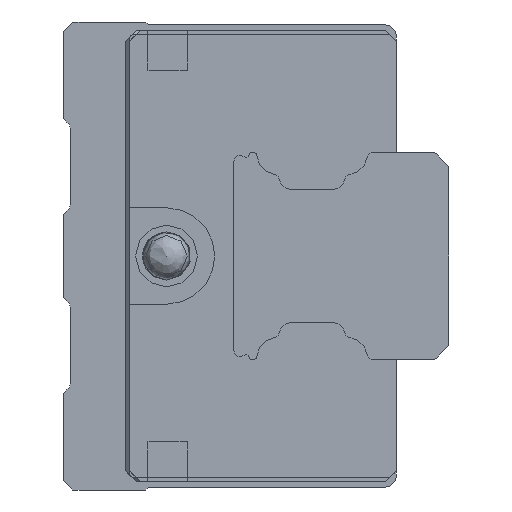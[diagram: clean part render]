
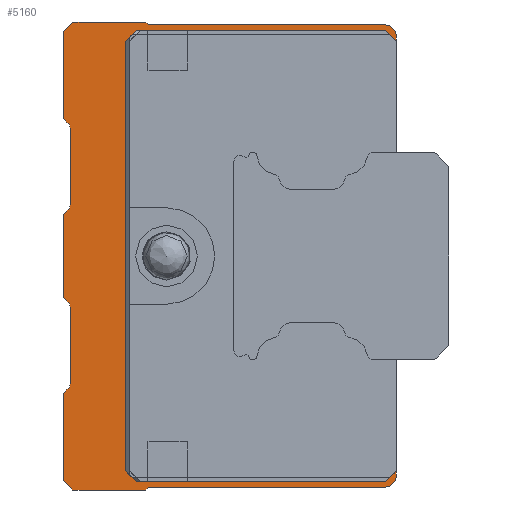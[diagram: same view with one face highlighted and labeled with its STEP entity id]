
A CAD part, left-side view. The second image highlights one B-rep face of the part: STEP entity #5160.
In plain terms, the highlighted planar face has unit normal (-1, 0, 0).
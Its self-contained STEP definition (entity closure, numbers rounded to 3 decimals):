
#38=LINE('',#7864,#354);
#47=LINE('',#7884,#363);
#56=LINE('',#7902,#372);
#82=LINE('',#7958,#398);
#90=LINE('',#7975,#406);
#98=LINE('',#7992,#414);
#123=LINE('',#8043,#439);
#153=LINE('',#8144,#469);
#155=LINE('',#8148,#471);
#159=LINE('',#8155,#475);
#163=LINE('',#8164,#479);
#166=LINE('',#8170,#482);
#170=LINE('',#8182,#486);
#174=LINE('',#8197,#490);
#178=LINE('',#8209,#494);
#181=LINE('',#8215,#497);
#184=LINE('',#8221,#500);
#187=LINE('',#8231,#503);
#190=LINE('',#8237,#506);
#194=LINE('',#8249,#510);
#198=LINE('',#8261,#514);
#201=LINE('',#8271,#517);
#204=LINE('',#8277,#520);
#208=LINE('',#8289,#524);
#212=LINE('',#8301,#528);
#215=LINE('',#8311,#531);
#354=VECTOR('',#6189,1000.);
#363=VECTOR('',#6204,1000.);
#372=VECTOR('',#6217,1000.);
#398=VECTOR('',#6257,1000.);
#406=VECTOR('',#6269,1000.);
#414=VECTOR('',#6283,1000.);
#439=VECTOR('',#6324,1000.);
#469=VECTOR('',#6406,1000.);
#471=VECTOR('',#6410,1000.);
#475=VECTOR('',#6416,1000.);
#479=VECTOR('',#6422,1000.);
#482=VECTOR('',#6427,1000.);
#486=VECTOR('',#6439,1000.);
#490=VECTOR('',#6457,1000.);
#494=VECTOR('',#6469,1000.);
#497=VECTOR('',#6474,1000.);
#500=VECTOR('',#6479,1000.);
#503=VECTOR('',#6488,1000.);
#506=VECTOR('',#6493,1000.);
#510=VECTOR('',#6505,1000.);
#514=VECTOR('',#6517,1000.);
#517=VECTOR('',#6526,1000.);
#520=VECTOR('',#6531,1000.);
#524=VECTOR('',#6543,1000.);
#528=VECTOR('',#6555,1000.);
#531=VECTOR('',#6564,1000.);
#733=PLANE('',#5588);
#1342=ORIENTED_EDGE('',*,*,#2346,.T.);
#1343=ORIENTED_EDGE('',*,*,#2355,.T.);
#1344=ORIENTED_EDGE('',*,*,#2478,.F.);
#1345=ORIENTED_EDGE('',*,*,#2500,.F.);
#1346=ORIENTED_EDGE('',*,*,#2497,.F.);
#1347=ORIENTED_EDGE('',*,*,#2494,.T.);
#1348=ORIENTED_EDGE('',*,*,#2491,.F.);
#1349=ORIENTED_EDGE('',*,*,#2488,.F.);
#1350=ORIENTED_EDGE('',*,*,#2484,.F.);
#1351=ORIENTED_EDGE('',*,*,#2562,.F.);
#1352=ORIENTED_EDGE('',*,*,#2557,.F.);
#1353=ORIENTED_EDGE('',*,*,#2554,.T.);
#1354=ORIENTED_EDGE('',*,*,#2551,.F.);
#1355=ORIENTED_EDGE('',*,*,#2548,.T.);
#1356=ORIENTED_EDGE('',*,*,#2545,.F.);
#1357=ORIENTED_EDGE('',*,*,#2542,.F.);
#1358=ORIENTED_EDGE('',*,*,#2537,.F.);
#1359=ORIENTED_EDGE('',*,*,#2534,.T.);
#1360=ORIENTED_EDGE('',*,*,#2531,.F.);
#1361=ORIENTED_EDGE('',*,*,#2528,.T.);
#1362=ORIENTED_EDGE('',*,*,#2525,.F.);
#1363=ORIENTED_EDGE('',*,*,#2522,.F.);
#1364=ORIENTED_EDGE('',*,*,#2517,.F.);
#1365=ORIENTED_EDGE('',*,*,#2514,.F.);
#1366=ORIENTED_EDGE('',*,*,#2511,.F.);
#1367=ORIENTED_EDGE('',*,*,#2508,.T.);
#1368=ORIENTED_EDGE('',*,*,#2505,.F.);
#1369=ORIENTED_EDGE('',*,*,#2502,.F.);
#1370=ORIENTED_EDGE('',*,*,#2480,.F.);
#1371=ORIENTED_EDGE('',*,*,#2390,.T.);
#1372=ORIENTED_EDGE('',*,*,#2399,.T.);
#1373=ORIENTED_EDGE('',*,*,#2382,.T.);
#1374=ORIENTED_EDGE('',*,*,#2425,.T.);
#1375=ORIENTED_EDGE('',*,*,#2336,.T.);
#2336=EDGE_CURVE('',#2997,#2996,#38,.T.);
#2346=EDGE_CURVE('',#2996,#3004,#47,.T.);
#2355=EDGE_CURVE('',#3004,#3011,#56,.T.);
#2382=EDGE_CURVE('',#3035,#3034,#82,.T.);
#2390=EDGE_CURVE('',#3042,#3041,#90,.T.);
#2399=EDGE_CURVE('',#3041,#3035,#98,.T.);
#2425=EDGE_CURVE('',#3034,#2997,#123,.T.);
#2478=EDGE_CURVE('',#3110,#3011,#153,.T.);
#2480=EDGE_CURVE('',#3042,#3112,#155,.T.);
#2484=EDGE_CURVE('',#3114,#3115,#159,.T.);
#2488=EDGE_CURVE('',#3115,#3118,#163,.T.);
#2491=EDGE_CURVE('',#3118,#3120,#166,.T.);
#2494=EDGE_CURVE('',#3122,#3120,#3543,.T.);
#2497=EDGE_CURVE('',#3122,#3124,#170,.T.);
#2500=EDGE_CURVE('',#3124,#3110,#3545,.T.);
#2502=EDGE_CURVE('',#3112,#3126,#3547,.T.);
#2505=EDGE_CURVE('',#3126,#3128,#174,.T.);
#2508=EDGE_CURVE('',#3130,#3128,#3549,.T.);
#2511=EDGE_CURVE('',#3130,#3132,#178,.T.);
#2514=EDGE_CURVE('',#3132,#3134,#181,.T.);
#2517=EDGE_CURVE('',#3134,#3136,#184,.T.);
#2522=EDGE_CURVE('',#3136,#3140,#187,.T.);
#2525=EDGE_CURVE('',#3140,#3142,#190,.T.);
#2528=EDGE_CURVE('',#3144,#3142,#3553,.T.);
#2531=EDGE_CURVE('',#3144,#3146,#194,.T.);
#2534=EDGE_CURVE('',#3148,#3146,#3555,.T.);
#2537=EDGE_CURVE('',#3148,#3150,#198,.T.);
#2542=EDGE_CURVE('',#3150,#3154,#201,.T.);
#2545=EDGE_CURVE('',#3154,#3156,#204,.T.);
#2548=EDGE_CURVE('',#3158,#3156,#3559,.T.);
#2551=EDGE_CURVE('',#3158,#3160,#208,.T.);
#2554=EDGE_CURVE('',#3162,#3160,#3561,.T.);
#2557=EDGE_CURVE('',#3162,#3164,#212,.T.);
#2562=EDGE_CURVE('',#3164,#3114,#215,.T.);
#2996=VERTEX_POINT('',#7863);
#2997=VERTEX_POINT('',#7865);
#3004=VERTEX_POINT('',#7883);
#3011=VERTEX_POINT('',#7901);
#3034=VERTEX_POINT('',#7957);
#3035=VERTEX_POINT('',#7959);
#3041=VERTEX_POINT('',#7974);
#3042=VERTEX_POINT('',#7976);
#3110=VERTEX_POINT('',#8143);
#3112=VERTEX_POINT('',#8149);
#3114=VERTEX_POINT('',#8156);
#3115=VERTEX_POINT('',#8157);
#3118=VERTEX_POINT('',#8165);
#3120=VERTEX_POINT('',#8171);
#3122=VERTEX_POINT('',#8177);
#3124=VERTEX_POINT('',#8183);
#3126=VERTEX_POINT('',#8192);
#3128=VERTEX_POINT('',#8198);
#3130=VERTEX_POINT('',#8204);
#3132=VERTEX_POINT('',#8210);
#3134=VERTEX_POINT('',#8216);
#3136=VERTEX_POINT('',#8222);
#3140=VERTEX_POINT('',#8232);
#3142=VERTEX_POINT('',#8238);
#3144=VERTEX_POINT('',#8244);
#3146=VERTEX_POINT('',#8250);
#3148=VERTEX_POINT('',#8256);
#3150=VERTEX_POINT('',#8262);
#3154=VERTEX_POINT('',#8272);
#3156=VERTEX_POINT('',#8278);
#3158=VERTEX_POINT('',#8284);
#3160=VERTEX_POINT('',#8290);
#3162=VERTEX_POINT('',#8296);
#3164=VERTEX_POINT('',#8302);
#3543=CIRCLE('',#5544,0.3);
#3545=CIRCLE('',#5548,0.8);
#3547=CIRCLE('',#5551,0.8);
#3549=CIRCLE('',#5555,0.3);
#3553=CIRCLE('',#5565,0.5);
#3555=CIRCLE('',#5569,0.5);
#3559=CIRCLE('',#5577,0.5);
#3561=CIRCLE('',#5581,0.5);
#3928=EDGE_LOOP('',(#1342,#1343,#1344,#1345,#1346,#1347,#1348,#1349,#1350,
#1351,#1352,#1353,#1354,#1355,#1356,#1357,#1358,#1359,#1360,#1361,#1362,
#1363,#1364,#1365,#1366,#1367,#1368,#1369,#1370,#1371,#1372,#1373,#1374,
#1375));
#4548=FACE_BOUND('',#3928,.T.);
#5160=ADVANCED_FACE('',(#4548),#733,.F.);
#5544=AXIS2_PLACEMENT_3D('',#8176,#6432,#6433);
#5548=AXIS2_PLACEMENT_3D('',#8188,#6444,#6445);
#5551=AXIS2_PLACEMENT_3D('',#8191,#6450,#6451);
#5555=AXIS2_PLACEMENT_3D('',#8203,#6462,#6463);
#5565=AXIS2_PLACEMENT_3D('',#8243,#6498,#6499);
#5569=AXIS2_PLACEMENT_3D('',#8255,#6510,#6511);
#5577=AXIS2_PLACEMENT_3D('',#8283,#6536,#6537);
#5581=AXIS2_PLACEMENT_3D('',#8295,#6548,#6549);
#5588=AXIS2_PLACEMENT_3D('',#8314,#6568,#6569);
#6189=DIRECTION('',(0.,-0.707,0.707));
#6204=DIRECTION('',(0.,-1.,0.));
#6217=DIRECTION('',(0.,-0.707,-0.707));
#6257=DIRECTION('',(0.,0.707,0.707));
#6269=DIRECTION('',(0.,0.707,-0.707));
#6283=DIRECTION('',(0.,1.,0.));
#6324=DIRECTION('',(0.,0.,1.));
#6406=DIRECTION('',(0.,0.,-1.));
#6410=DIRECTION('',(0.,0.,-1.));
#6416=DIRECTION('',(0.,-0.707,0.707));
#6422=DIRECTION('',(0.,-1.,0.));
#6427=DIRECTION('',(0.,-0.707,-0.707));
#6432=DIRECTION('',(1.,0.,0.));
#6433=DIRECTION('',(0.,0.,-1.));
#6439=DIRECTION('',(0.,-1.,0.));
#6444=DIRECTION('',(1.,0.,0.));
#6445=DIRECTION('',(0.,0.,-1.));
#6450=DIRECTION('',(1.,0.,0.));
#6451=DIRECTION('',(0.,0.,-1.));
#6457=DIRECTION('',(0.,1.,0.));
#6462=DIRECTION('',(1.,0.,0.));
#6463=DIRECTION('',(0.,0.,-1.));
#6469=DIRECTION('',(0.,0.707,-0.707));
#6474=DIRECTION('',(0.,1.,0.));
#6479=DIRECTION('',(0.,0.707,0.707));
#6488=DIRECTION('',(0.,0.,1.));
#6493=DIRECTION('',(0.,-0.707,0.707));
#6498=DIRECTION('',(1.,0.,0.));
#6499=DIRECTION('',(0.,0.,-1.));
#6505=DIRECTION('',(0.,0.,1.));
#6510=DIRECTION('',(1.,0.,0.));
#6511=DIRECTION('',(0.,0.,-1.));
#6517=DIRECTION('',(0.,0.707,0.707));
#6526=DIRECTION('',(0.,0.,1.));
#6531=DIRECTION('',(0.,-0.707,0.707));
#6536=DIRECTION('',(1.,0.,0.));
#6537=DIRECTION('',(0.,0.,-1.));
#6543=DIRECTION('',(0.,0.,1.));
#6548=DIRECTION('',(1.,0.,0.));
#6549=DIRECTION('',(0.,0.,-1.));
#6555=DIRECTION('',(0.,0.707,0.707));
#6564=DIRECTION('',(0.,0.,1.));
#6568=DIRECTION('',(1.,0.,0.));
#6569=DIRECTION('',(0.,0.,-1.));
#7863=CARTESIAN_POINT('',(-26.75,18.9,16.4));
#7864=CARTESIAN_POINT('',(-26.75,19.7,15.6));
#7865=CARTESIAN_POINT('',(-26.75,19.7,15.6));
#7883=CARTESIAN_POINT('',(-26.75,0.8,16.4));
#7884=CARTESIAN_POINT('',(-26.75,18.9,16.4));
#7901=CARTESIAN_POINT('',(-26.75,0.,15.6));
#7902=CARTESIAN_POINT('',(-26.75,0.8,16.4));
#7957=CARTESIAN_POINT('',(-26.75,19.7,-15.6));
#7958=CARTESIAN_POINT('',(-26.75,18.9,-16.4));
#7959=CARTESIAN_POINT('',(-26.75,18.9,-16.4));
#7974=CARTESIAN_POINT('',(-26.75,0.8,-16.4));
#7975=CARTESIAN_POINT('',(-26.75,0.,-15.6));
#7976=CARTESIAN_POINT('',(-26.75,0.,-15.6));
#7992=CARTESIAN_POINT('',(-26.75,0.8,-16.4));
#8043=CARTESIAN_POINT('',(-26.75,19.7,-15.6));
#8143=CARTESIAN_POINT('',(-26.75,0.,16.));
#8144=CARTESIAN_POINT('',(-26.75,0.,16.));
#8148=CARTESIAN_POINT('',(-26.75,0.,16.));
#8149=CARTESIAN_POINT('',(-26.75,0.,-16.));
#8155=CARTESIAN_POINT('',(-26.75,24.2,16.3));
#8156=CARTESIAN_POINT('',(-26.75,24.2,16.3));
#8157=CARTESIAN_POINT('',(-26.75,23.5,17.));
#8164=CARTESIAN_POINT('',(-26.75,23.5,17.));
#8165=CARTESIAN_POINT('',(-26.75,18.2,17.));
#8170=CARTESIAN_POINT('',(-26.75,18.2,17.));
#8171=CARTESIAN_POINT('',(-26.75,18.088,16.888));
#8176=CARTESIAN_POINT('',(-26.75,17.876,17.1));
#8177=CARTESIAN_POINT('',(-26.75,17.876,16.8));
#8182=CARTESIAN_POINT('',(-26.75,17.876,16.8));
#8183=CARTESIAN_POINT('',(-26.75,0.8,16.8));
#8188=CARTESIAN_POINT('',(-26.75,0.8,16.));
#8191=CARTESIAN_POINT('',(-26.75,0.8,-16.));
#8192=CARTESIAN_POINT('',(-26.75,0.8,-16.8));
#8197=CARTESIAN_POINT('',(-26.75,0.8,-16.8));
#8198=CARTESIAN_POINT('',(-26.75,17.876,-16.8));
#8203=CARTESIAN_POINT('',(-26.75,17.876,-17.1));
#8204=CARTESIAN_POINT('',(-26.75,18.088,-16.888));
#8209=CARTESIAN_POINT('',(-26.75,18.088,-16.888));
#8210=CARTESIAN_POINT('',(-26.75,18.2,-17.));
#8215=CARTESIAN_POINT('',(-26.75,18.2,-17.));
#8216=CARTESIAN_POINT('',(-26.75,23.5,-17.));
#8221=CARTESIAN_POINT('',(-26.75,23.5,-17.));
#8222=CARTESIAN_POINT('',(-26.75,24.2,-16.3));
#8231=CARTESIAN_POINT('',(-26.75,24.2,-16.3));
#8232=CARTESIAN_POINT('',(-26.75,24.2,-10.));
#8237=CARTESIAN_POINT('',(-26.75,24.2,-10.));
#8238=CARTESIAN_POINT('',(-26.75,23.846,-9.646));
#8243=CARTESIAN_POINT('',(-26.75,24.2,-9.293));
#8244=CARTESIAN_POINT('',(-26.75,23.7,-9.293));
#8249=CARTESIAN_POINT('',(-26.75,23.7,-9.293));
#8250=CARTESIAN_POINT('',(-26.75,23.7,-3.707));
#8255=CARTESIAN_POINT('',(-26.75,24.2,-3.707));
#8256=CARTESIAN_POINT('',(-26.75,23.846,-3.354));
#8261=CARTESIAN_POINT('',(-26.75,23.846,-3.354));
#8262=CARTESIAN_POINT('',(-26.75,24.2,-3.));
#8271=CARTESIAN_POINT('',(-26.75,24.2,-3.));
#8272=CARTESIAN_POINT('',(-26.75,24.2,3.));
#8277=CARTESIAN_POINT('',(-26.75,24.2,3.));
#8278=CARTESIAN_POINT('',(-26.75,23.846,3.354));
#8283=CARTESIAN_POINT('',(-26.75,24.2,3.707));
#8284=CARTESIAN_POINT('',(-26.75,23.7,3.707));
#8289=CARTESIAN_POINT('',(-26.75,23.7,3.707));
#8290=CARTESIAN_POINT('',(-26.75,23.7,9.293));
#8295=CARTESIAN_POINT('',(-26.75,24.2,9.293));
#8296=CARTESIAN_POINT('',(-26.75,23.846,9.646));
#8301=CARTESIAN_POINT('',(-26.75,23.846,9.646));
#8302=CARTESIAN_POINT('',(-26.75,24.2,10.));
#8311=CARTESIAN_POINT('',(-26.75,24.2,10.));
#8314=CARTESIAN_POINT('',(-26.75,17.876,17.1));
